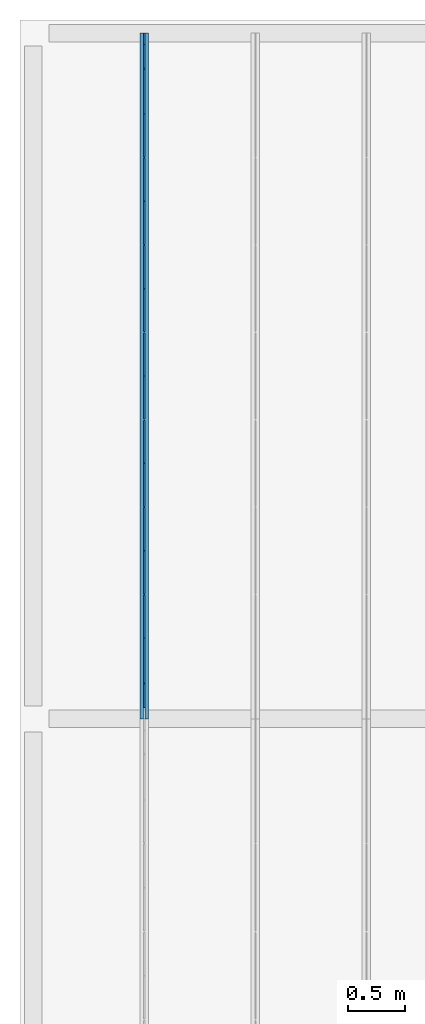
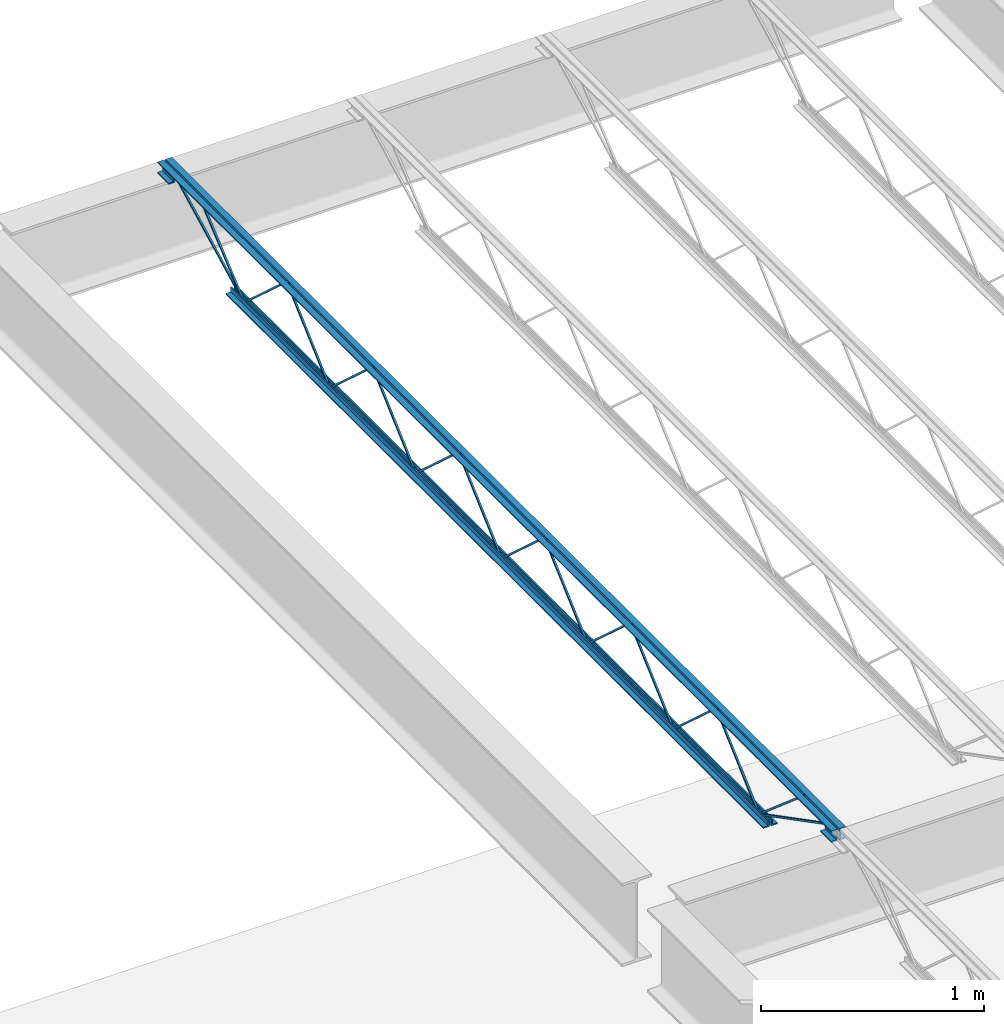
# One storey, part 36 of 75: 1 beam.
"""IFC2X3 building model written with IfcOpenShell, lengths in metres."""

from ifc_helpers import new_model, entity, si_unit, converted_unit, frame, origin, place, context, project, spatial, face_set, surface_model, element, save


model = new_model("IFC2X3")

# Units and contexts
model_context = context("Model", 3, precision=1e-09, world=origin())
plan_context = context("Plan", 3, precision=1e-09, world=origin())
ifc_project = project(units=[si_unit("LENGTHUNIT", "METRE"), si_unit("AREAUNIT", "SQUARE_METRE"), si_unit("VOLUMEUNIT", "CUBIC_METRE"), converted_unit("PLANEANGLEUNIT", "DEGREE", entity("IfcRatioMeasure", 0.01745329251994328), si_unit("PLANEANGLEUNIT", "RADIAN"), dimensions=[0, 0, 0, 0, 0, 0, 0]), si_unit("TIMEUNIT", "SECOND")], contexts=[model_context, plan_context])

# Site, building, storey
site_placement = place(None, origin())
site = spatial("IfcSite", under=ifc_project, at=site_placement, Name="Default", CompositionType="ELEMENT")
building_placement = place(site_placement, origin())
building = spatial("IfcBuilding", under=site, at=building_placement, CompositionType="ELEMENT")
storey_placement = place(building_placement, origin())
storey = spatial("IfcBuildingStorey", under=building, at=storey_placement, Name="First Floor", CompositionType="ELEMENT", Elevation=-3.531500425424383e-13)

# Beam
beam_placement = place(storey_placement, frame((-50.95674999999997, 50.09000000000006, 4.112000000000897), z_axis=(0.0, 0.0, 1.0), x_axis=(-1.0, 0.0, 0.0)))
element("IfcBeam", 1, at=beam_placement, inside=storey, Name="M_K-Series Bar Joist-Rod Web:14K1:14K1", ObjectType="M_K-Series Bar Joist-Rod Web:14K1", context=model_context, shape_type="SurfaceModel", body=[
    surface_model("IfcFaceBasedSurfaceModel", [(-0.03200000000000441, -2.254000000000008, 0.01110000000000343), (-0.0415000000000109, -2.254000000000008, 0.01110000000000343), (-0.0415000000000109, -2.254000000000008, 0.001600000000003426), (-0.03200000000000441, -2.254000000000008, 0.001600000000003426), (-0.04150000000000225, -2.252655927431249, 0.01110000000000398), (-0.03200000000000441, -2.252655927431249, 0.01110000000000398), (-0.04150000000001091, -2.248994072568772, 0.001600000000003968), (-0.04150000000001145, -1.869844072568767, 0.3449000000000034), (-0.04150000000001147, -1.86715592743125, 0.3449000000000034), (-0.04150000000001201, -1.48800592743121, 0.001600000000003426), (-0.04150000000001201, -1.483000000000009, 0.001600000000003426), (-0.04150000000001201, -1.483000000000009, 0.01110000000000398), (-0.04150000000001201, -1.484344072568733, 0.01110000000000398), (-0.04150000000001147, -1.863494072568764, 0.3544000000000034), (-0.04150000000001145, -1.873505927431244, 0.3544000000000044), (-0.03200000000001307, -2.248994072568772, 0.001600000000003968), (-0.03200000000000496, -1.869844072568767, 0.3449000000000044), (-0.03200000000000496, -1.86715592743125, 0.3449000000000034), (-0.0320000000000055, -1.48800592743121, 0.001600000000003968), (-0.03200000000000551, -1.483000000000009, 0.001600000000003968), (-0.03200000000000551, -1.483000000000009, 0.01110000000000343), (-0.0320000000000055, -1.484344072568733, 0.01110000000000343), (-0.03200000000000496, -1.863494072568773, 0.3544000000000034), (-0.03200000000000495, -1.873505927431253, 0.3544000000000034), (-0.0320000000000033, -3.025000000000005, 0.01110000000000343), (-0.04150000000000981, -3.025000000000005, 0.01110000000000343), (-0.04150000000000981, -3.025000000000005, 0.001600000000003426), (-0.0320000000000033, -3.025000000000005, 0.001600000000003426), (-0.04150000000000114, -3.023655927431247, 0.01110000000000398), (-0.0320000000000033, -3.023655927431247, 0.01110000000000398), (-0.04150000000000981, -3.01999407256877, 0.001600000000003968), (-0.04150000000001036, -2.640844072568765, 0.3449000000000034), (-0.04150000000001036, -2.638155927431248, 0.3449000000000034), (-0.0415000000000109, -2.259005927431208, 0.001600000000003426), (-0.0415000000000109, -2.254000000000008, 0.01110000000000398), (-0.0415000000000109, -2.255344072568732, 0.01110000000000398), (-0.04150000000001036, -2.634494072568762, 0.3544000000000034), (-0.04150000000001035, -2.644505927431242, 0.3544000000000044), (-0.03200000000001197, -3.01999407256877, 0.001600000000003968), (-0.03200000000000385, -2.640844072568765, 0.3449000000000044), (-0.03200000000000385, -2.638155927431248, 0.3449000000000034), (-0.03200000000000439, -2.259005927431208, 0.001600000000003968), (-0.03200000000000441, -2.254000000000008, 0.001600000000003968), (-0.0320000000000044, -2.255344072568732, 0.01110000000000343), (-0.03200000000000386, -2.634494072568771, 0.3544000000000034), (-0.03200000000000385, -2.644505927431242, 0.3544000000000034), (-0.03200000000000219, -3.796000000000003, 0.01110000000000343), (-0.0415000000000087, -3.796000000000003, 0.01110000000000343), (-0.0415000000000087, -3.796000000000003, 0.001600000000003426), (-0.03200000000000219, -3.796000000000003, 0.001600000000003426), (-0.04150000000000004, -3.794655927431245, 0.01110000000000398), (-0.03200000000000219, -3.794655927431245, 0.01110000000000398), (-0.0415000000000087, -3.790994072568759, 0.001600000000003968), (-0.04150000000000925, -3.411844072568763, 0.3449000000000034), (-0.04150000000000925, -3.409155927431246, 0.3449000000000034), (-0.04150000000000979, -3.030005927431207, 0.001600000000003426), (-0.04150000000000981, -3.025000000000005, 0.01110000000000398), (-0.04150000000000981, -3.026344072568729, 0.01110000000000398), (-0.04150000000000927, -3.40549407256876, 0.3544000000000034), (-0.04150000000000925, -3.41550592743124, 0.3544000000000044), (-0.03200000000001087, -3.790994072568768, 0.001600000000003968), (-0.03200000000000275, -3.411844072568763, 0.3449000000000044), (-0.03200000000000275, -3.409155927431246, 0.3449000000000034), (-0.03200000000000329, -3.030005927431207, 0.001600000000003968), (-0.0320000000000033, -3.025000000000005, 0.001600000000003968), (-0.0320000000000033, -3.026344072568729, 0.01110000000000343), (-0.03200000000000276, -3.40549407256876, 0.3544000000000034), (-0.03200000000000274, -3.41550592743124, 0.3544000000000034), (-0.03200000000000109, -4.567000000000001, 0.01110000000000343), (-0.04150000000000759, -4.567000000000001, 0.01110000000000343), (-0.04150000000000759, -4.567000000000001, 0.001600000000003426), (-0.03200000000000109, -4.567000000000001, 0.001600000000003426), (-0.04149999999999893, -4.565655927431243, 0.01110000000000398), (-0.03200000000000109, -4.565655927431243, 0.01110000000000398), (-0.04150000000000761, -4.561994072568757, 0.001600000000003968), (-0.04150000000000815, -4.182844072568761, 0.3449000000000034), (-0.04150000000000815, -4.180155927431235, 0.3449000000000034), (-0.0415000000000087, -3.801005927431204, 0.001600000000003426), (-0.0415000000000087, -3.795999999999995, 0.001600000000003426), (-0.0415000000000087, -3.796000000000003, 0.01110000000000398), (-0.0415000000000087, -3.797344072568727, 0.01110000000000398), (-0.04150000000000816, -4.176494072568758, 0.3544000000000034), (-0.04150000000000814, -4.186505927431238, 0.3544000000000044), (-0.03200000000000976, -4.561994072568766, 0.001600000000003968), (-0.03200000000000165, -4.182844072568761, 0.3449000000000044), (-0.03200000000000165, -4.180155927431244, 0.3449000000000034), (-0.03200000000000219, -3.801005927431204, 0.001600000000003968), (-0.03200000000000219, -3.796000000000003, 0.001600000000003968), (-0.03200000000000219, -3.795999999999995, 0.01110000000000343), (-0.03200000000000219, -3.797344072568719, 0.01110000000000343), (-0.03200000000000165, -4.176494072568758, 0.3544000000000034), (-0.03200000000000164, -4.186505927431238, 0.3544000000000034), (-0.03200000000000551, -1.483000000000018, 0.01109999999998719), (-0.04150000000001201, -1.483000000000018, 0.01109999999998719), (-0.04150000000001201, -1.483000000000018, 0.001599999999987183), (-0.03200000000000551, -1.483000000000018, 0.001599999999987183), (-0.04150000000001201, -1.48165592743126, 0.01109999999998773), (-0.03200000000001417, -1.48165592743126, 0.01109999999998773), (-0.04150000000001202, -1.477994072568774, 0.001599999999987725), (-0.04150000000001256, -1.098844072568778, 0.3448999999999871), (-0.04150000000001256, -1.096155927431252, 0.3448999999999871), (-0.04150000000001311, -0.717005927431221, 0.001599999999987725), (-0.04150000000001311, -0.7120000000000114, 0.001599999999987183), (-0.04150000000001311, -0.7120000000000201, 0.01109999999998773), (-0.04150000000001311, -0.713344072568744, 0.01109999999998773), (-0.04150000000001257, -1.092494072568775, 0.3543999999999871), (-0.04150000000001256, -1.102505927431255, 0.3543999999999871), (-0.03200000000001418, -1.477994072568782, 0.001599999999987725), (-0.03200000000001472, -1.098844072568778, 0.3448999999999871), (-0.03200000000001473, -1.09615592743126, 0.3448999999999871), (-0.03200000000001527, -0.717005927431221, 0.001599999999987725), (-0.03200000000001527, -0.7120000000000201, 0.001599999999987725), (-0.03200000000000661, -0.7120000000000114, 0.01109999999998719), (-0.03200000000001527, -0.7133440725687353, 0.01109999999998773), (-0.03200000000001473, -1.092494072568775, 0.3543999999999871), (-0.03200000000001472, -1.102505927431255, 0.3543999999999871), (-0.03199999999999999, -5.33799999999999, 0.01110000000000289), (-0.04150000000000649, -5.33799999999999, 0.01110000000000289), (-0.04150000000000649, -5.33799999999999, 0.001600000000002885), (-0.03199999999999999, -5.33799999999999, 0.001600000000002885), (-0.04149999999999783, -5.336655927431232, 0.01110000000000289), (-0.03199999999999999, -5.336655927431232, 0.01110000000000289), (-0.0415000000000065, -5.332994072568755, 0.001600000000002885), (-0.04150000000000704, -4.95384407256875, 0.3449000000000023), (-0.04150000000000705, -4.951155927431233, 0.3449000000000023), (-0.04150000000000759, -4.572005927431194, 0.001600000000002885), (-0.04150000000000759, -4.566999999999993, 0.001600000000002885), (-0.04150000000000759, -4.566999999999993, 0.01110000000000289), (-0.04150000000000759, -4.568344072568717, 0.01110000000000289), (-0.04150000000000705, -4.947494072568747, 0.3544000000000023), (-0.04150000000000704, -4.957505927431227, 0.3544000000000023), (-0.03200000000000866, -5.332994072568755, 0.001600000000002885), (-0.03200000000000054, -4.95384407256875, 0.3449000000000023), (-0.03200000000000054, -4.951155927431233, 0.3449000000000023), (-0.03200000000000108, -4.572005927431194, 0.001600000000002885), (-0.03200000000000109, -4.566999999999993, 0.001600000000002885), (-0.03200000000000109, -4.566999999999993, 0.01110000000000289), (-0.03200000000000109, -4.568344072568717, 0.01110000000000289), (-0.03200000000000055, -4.947494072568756, 0.3544000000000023), (-0.03200000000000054, -4.957505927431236, 0.3544000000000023), (-0.04150000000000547, 0.0, 0.3559999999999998), (-0.07350000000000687, 0.0, 0.3559999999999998), (-0.07350000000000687, 0.0, 0.349499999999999), (-0.048000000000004, 0.0, 0.349499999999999), (-0.048000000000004, 0.0, 0.3239999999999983), (-0.04150000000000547, 0.0, 0.3239999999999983), (-0.03200000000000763, 0.0, 0.3559999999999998), (-0.03200000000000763, 0.0, 0.3239999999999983), (-0.02550000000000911, 0.0, 0.3239999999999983), (-0.02550000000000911, 0.0, 0.349499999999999), (0.0, 0.0, 0.349499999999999), (0.0, 0.0, 0.3559999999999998), (-0.04150000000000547, -6.049999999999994, 0.3559999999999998), (-0.07350000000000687, -6.049999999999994, 0.3559999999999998), (-0.07350000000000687, -6.049999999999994, 0.349499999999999), (-0.048000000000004, -6.049999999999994, 0.349499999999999), (-0.048000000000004, -6.049999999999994, 0.3239999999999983), (-0.04150000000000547, -6.049999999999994, 0.3239999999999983), (-0.03200000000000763, -6.049999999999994, 0.3559999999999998), (-0.03200000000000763, -6.049999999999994, 0.3239999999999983), (-0.02550000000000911, -6.049999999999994, 0.3239999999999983), (-0.02550000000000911, -6.049999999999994, 0.349499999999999), (0.0, -6.049999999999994, 0.349499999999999), (0.0, -6.049999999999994, 0.3559999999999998), (-0.03199999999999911, -5.950000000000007, 0.2924999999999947), (0.0, -5.950000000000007, 0.2924999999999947), (0.0, -5.950000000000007, 0.2989999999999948), (-0.02550000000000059, -5.950000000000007, 0.2989999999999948), (-0.02550000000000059, -5.950000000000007, 0.3239999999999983), (-0.03199999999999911, -5.950000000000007, 0.3239999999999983), (-0.07349999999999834, -5.950000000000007, 0.2924999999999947), (-0.04149999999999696, -5.950000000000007, 0.2924999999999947), (-0.04149999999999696, -5.950000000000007, 0.3239999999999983), (-0.04799999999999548, -5.950000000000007, 0.3239999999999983), (-0.04799999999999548, -5.950000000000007, 0.2989999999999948), (-0.07349999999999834, -5.950000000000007, 0.2989999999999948), (-0.03199999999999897, -6.049999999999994, 0.2924999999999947), (0.0, -6.049999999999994, 0.2924999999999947), (0.0, -6.049999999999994, 0.2989999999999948), (-0.02550000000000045, -6.049999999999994, 0.2989999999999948), (-0.02550000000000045, -6.049999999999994, 0.3239999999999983), (-0.03199999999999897, -6.049999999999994, 0.3239999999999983), (-0.07349999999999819, -6.049999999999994, 0.2924999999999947), (-0.04149999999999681, -6.049999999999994, 0.2924999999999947), (-0.04149999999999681, -6.049999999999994, 0.3239999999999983), (-0.04799999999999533, -6.049999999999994, 0.3239999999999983), (-0.04799999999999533, -6.049999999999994, 0.2989999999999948), (-0.07349999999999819, -6.049999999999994, 0.2989999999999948), (-0.04149999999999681, 0.0, 0.2924999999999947), (-0.04149999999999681, 0.0, 0.3239999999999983), (-0.04799999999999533, 0.0, 0.3239999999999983), (-0.04799999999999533, 0.0, 0.2989999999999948), (-0.07349999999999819, 0.0, 0.2989999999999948), (-0.07349999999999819, 0.0, 0.2924999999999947), (-0.03199999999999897, 0.0, 0.2924999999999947), (0.0, 0.0, 0.2924999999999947), (0.0, 0.0, 0.2989999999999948), (-0.02550000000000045, 0.0, 0.2989999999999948), (-0.02550000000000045, 0.0, 0.3239999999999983), (-0.03199999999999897, 0.0, 0.3239999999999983), (-0.04150000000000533, -0.0999999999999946, 0.2924999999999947), (-0.04150000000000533, -0.0999999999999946, 0.3239999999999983), (-0.04800000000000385, -0.0999999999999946, 0.3239999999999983), (-0.04800000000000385, -0.0999999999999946, 0.2989999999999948), (-0.07350000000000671, -0.0999999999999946, 0.2989999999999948), (-0.07350000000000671, -0.0999999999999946, 0.2924999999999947), (-0.03200000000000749, -0.0999999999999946, 0.2924999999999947), (0.0, -0.0999999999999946, 0.2924999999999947), (0.0, -0.0999999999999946, 0.2989999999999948), (-0.02550000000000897, -0.0999999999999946, 0.2989999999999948), (-0.02550000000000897, -0.0999999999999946, 0.3239999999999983), (-0.03200000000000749, -0.0999999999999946, 0.3239999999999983), (-0.04150000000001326, -0.6119999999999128, 0.0), (-0.04150000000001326, -0.6119999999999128, 0.03199999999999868), (-0.04800000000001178, -0.6119999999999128, 0.03199999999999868), (-0.04800000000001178, -0.6119999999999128, 0.006499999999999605), (-0.07350000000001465, -0.6119999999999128, 0.006499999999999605), (-0.07350000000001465, -0.6119999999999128, 0.0), (-0.03200000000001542, -0.6119999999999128, 0.0), (0.0, -0.6119999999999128, 0.0), (0.0, -0.6119999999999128, 0.006499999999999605), (-0.0255000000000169, -0.6119999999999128, 0.006499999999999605), (-0.0255000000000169, -0.6119999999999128, 0.03199999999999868), (-0.03200000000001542, -0.6119999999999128, 0.03199999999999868), (-0.04150000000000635, -5.437999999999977, 0.0), (-0.04150000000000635, -5.437999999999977, 0.03199999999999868), (-0.04800000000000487, -5.437999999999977, 0.03199999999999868), (-0.04800000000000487, -5.437999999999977, 0.006499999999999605), (-0.07350000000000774, -5.437999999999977, 0.006499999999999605), (-0.07350000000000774, -5.437999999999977, 0.0), (-0.03200000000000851, -5.437999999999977, 0.0), (0.0, -5.437999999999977, 0.0), (0.0, -5.437999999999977, 0.006499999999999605), (-0.02550000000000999, -5.437999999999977, 0.006499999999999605), (-0.02550000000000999, -5.437999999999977, 0.03199999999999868), (-0.03200000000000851, -5.437999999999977, 0.03199999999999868), (-0.03199999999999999, -5.335811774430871, 0.01056594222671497), (-0.0415000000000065, -5.335811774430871, 0.01056594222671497), (-0.04150000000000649, -5.34018822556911, 0.002134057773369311), (-0.03199999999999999, -5.34018822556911, 0.002134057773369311), (-0.03199999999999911, -5.948840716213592, 0.3287499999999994), (-0.03199999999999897, -6.049999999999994, 0.3287499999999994), (-0.03199999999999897, -6.049999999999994, 0.3192499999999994), (-0.03199999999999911, -5.951159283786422, 0.3192499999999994), (-0.04149999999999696, -5.951159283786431, 0.3192499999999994), (-0.04150000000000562, -5.948840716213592, 0.3287499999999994), (-0.04150000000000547, -6.049999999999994, 0.3287499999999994), (-0.04150000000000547, -6.049999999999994, 0.3192499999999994), (-0.03199999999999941, -5.743457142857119, 0.341700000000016), (-0.04150000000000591, -5.743457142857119, 0.341700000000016), (-0.04150000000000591, -5.743457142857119, 0.332200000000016), (-0.03199999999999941, -5.743457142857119, 0.332200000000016), (-0.04149999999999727, -5.729024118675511, 0.341700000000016), (-0.03199999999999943, -5.729024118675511, 0.341700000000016), (-0.04150000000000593, -5.732490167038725, 0.332200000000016), (-0.04150000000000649, -5.341058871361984, 0.002716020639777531), (-0.0415000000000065, -5.334941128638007, 0.009983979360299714), (-0.03200000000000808, -5.732490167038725, 0.332200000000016), (-0.03199999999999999, -5.341058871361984, 0.002716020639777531), (-0.03199999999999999, -5.334941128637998, 0.009983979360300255), (-0.0320000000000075, -0.09781177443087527, 0.3197840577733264), (-0.03200000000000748, -0.1021882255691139, 0.3282159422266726), (-0.04150000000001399, -0.1021882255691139, 0.3282159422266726), (-0.04150000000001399, -0.09781177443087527, 0.3197840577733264), (-0.03200000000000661, -0.7098117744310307, 0.002134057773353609), (-0.03200000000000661, -0.7141882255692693, 0.01056594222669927), (-0.04150000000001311, -0.7141882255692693, 0.01056594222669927), (-0.04150000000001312, -0.7098117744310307, 0.002134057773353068), (-0.03200000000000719, -0.3088922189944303, 0.3460454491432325), (-0.03200000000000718, -0.3150792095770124, 0.3532545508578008), (-0.04150000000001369, -0.3150792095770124, 0.3532545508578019), (-0.04150000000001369, -0.3088922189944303, 0.3460454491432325), (-0.03200000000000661, -0.7089065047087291, 0.002745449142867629), (-0.03200000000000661, -0.715093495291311, 0.009954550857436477), (-0.04150000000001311, -0.715093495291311, 0.009954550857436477), (-0.04150000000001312, -0.7089065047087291, 0.002745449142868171)], [face_set([[[0, 1, 2, 3]], [[1, 4, 5, 0]], [[2, 6, 7, 8, 9, 10, 11, 12, 13, 14, 4, 1]], [[3, 2, 6, 15]], [[0, 3, 15, 16, 17, 18, 19, 20, 21, 22, 23, 5]], [[4, 5, 23, 14]], [[15, 16, 7, 6]], [[14, 13, 22, 23]], [[16, 7, 8, 17]], [[13, 12, 21, 22]], [[17, 8, 9, 18]], [[20, 11, 10, 19]], [[12, 11, 20, 21]], [[18, 9, 10, 19]]]), face_set([[[24, 25, 26, 27]], [[25, 28, 29, 24]], [[26, 30, 31, 32, 33, 2, 34, 35, 36, 37, 28, 25]], [[27, 26, 30, 38]], [[24, 27, 38, 39, 40, 41, 42, 0, 43, 44, 45, 29]], [[28, 29, 45, 37]], [[38, 39, 31, 30]], [[37, 36, 44, 45]], [[39, 31, 32, 40]], [[36, 35, 43, 44]], [[40, 32, 33, 41]], [[0, 34, 2, 42]], [[35, 34, 0, 43]], [[41, 33, 2, 42]]]), face_set([[[46, 47, 48, 49]], [[47, 50, 51, 46]], [[48, 52, 53, 54, 55, 26, 56, 57, 58, 59, 50, 47]], [[49, 48, 52, 60]], [[46, 49, 60, 61, 62, 63, 64, 24, 65, 66, 67, 51]], [[50, 51, 67, 59]], [[60, 61, 53, 52]], [[59, 58, 66, 67]], [[61, 53, 54, 62]], [[58, 57, 65, 66]], [[62, 54, 55, 63]], [[24, 56, 26, 64]], [[57, 56, 24, 65]], [[63, 55, 26, 64]]]), face_set([[[68, 69, 70, 71]], [[69, 72, 73, 68]], [[70, 74, 75, 76, 77, 78, 79, 80, 81, 82, 72, 69]], [[71, 70, 74, 83]], [[68, 71, 83, 84, 85, 86, 87, 88, 89, 90, 91, 73]], [[72, 73, 91, 82]], [[83, 84, 75, 74]], [[82, 81, 90, 91]], [[84, 75, 76, 85]], [[81, 80, 89, 90]], [[85, 76, 77, 86]], [[88, 79, 78, 87]], [[80, 79, 88, 89]], [[86, 77, 78, 87]]]), face_set([[[92, 93, 94, 95]], [[93, 96, 97, 92]], [[94, 98, 99, 100, 101, 102, 103, 104, 105, 106, 96, 93]], [[95, 94, 98, 107]], [[92, 95, 107, 108, 109, 110, 111, 112, 113, 114, 115, 97]], [[96, 97, 115, 106]], [[107, 108, 99, 98]], [[106, 105, 114, 115]], [[108, 99, 100, 109]], [[105, 104, 113, 114]], [[109, 100, 101, 110]], [[112, 103, 102, 111]], [[104, 103, 112, 113]], [[110, 101, 102, 111]]]), face_set([[[116, 117, 118, 119]], [[117, 120, 121, 116]], [[118, 122, 123, 124, 125, 126, 127, 128, 129, 130, 120, 117]], [[119, 118, 122, 131]], [[116, 119, 131, 132, 133, 134, 135, 136, 137, 138, 139, 121]], [[120, 121, 139, 130]], [[131, 132, 123, 122]], [[130, 129, 138, 139]], [[132, 123, 124, 133]], [[129, 128, 137, 138]], [[133, 124, 125, 134]], [[136, 127, 126, 135]], [[128, 127, 136, 137]], [[134, 125, 126, 135]]]), face_set([[[140, 141, 142, 143, 144, 145]], [[146, 147, 148, 149, 150, 151]], [[152, 153, 154, 155, 156, 157]], [[158, 159, 160, 161, 162, 163]], [[145, 140, 152, 157]], [[144, 145, 157, 156]], [[143, 155, 156, 144]], [[142, 143, 155, 154]], [[141, 153, 154, 142]], [[140, 152, 153, 141]], [[151, 163, 158, 146]], [[150, 151, 163, 162]], [[149, 150, 162, 161]], [[148, 149, 161, 160]], [[147, 148, 160, 159]], [[146, 158, 159, 147]]]), face_set([[[164, 165, 166, 167, 168, 169]], [[170, 171, 172, 173, 174, 175]], [[176, 177, 178, 179, 180, 181]], [[182, 183, 184, 185, 186, 187]], [[169, 181, 176, 164]], [[168, 180, 181, 169]], [[167, 168, 180, 179]], [[166, 178, 179, 167]], [[165, 166, 178, 177]], [[164, 165, 177, 176]], [[175, 187, 182, 170]], [[174, 186, 187, 175]], [[173, 185, 186, 174]], [[172, 184, 185, 173]], [[171, 172, 184, 183]], [[170, 171, 183, 182]]]), face_set([[[188, 189, 190, 191, 192, 193]], [[194, 195, 196, 197, 198, 199]], [[200, 201, 202, 203, 204, 205]], [[206, 207, 208, 209, 210, 211]], [[193, 188, 200, 205]], [[192, 204, 205, 193]], [[191, 203, 204, 192]], [[190, 202, 203, 191]], [[189, 201, 202, 190]], [[188, 189, 201, 200]], [[199, 211, 206, 194]], [[198, 210, 211, 199]], [[197, 198, 210, 209]], [[196, 208, 209, 197]], [[195, 196, 208, 207]], [[194, 195, 207, 206]]]), face_set([[[212, 213, 214, 215, 216, 217]], [[218, 219, 220, 221, 222, 223]], [[224, 225, 226, 227, 228, 229]], [[230, 231, 232, 233, 234, 235]], [[217, 212, 224, 229]], [[216, 228, 229, 217]], [[215, 227, 228, 216]], [[214, 226, 227, 215]], [[213, 225, 226, 214]], [[212, 213, 225, 224]], [[223, 235, 230, 218]], [[222, 234, 235, 223]], [[221, 222, 234, 233]], [[220, 232, 233, 221]], [[219, 220, 232, 231]], [[218, 219, 231, 230]]]), face_set([[[236, 237, 238, 239]], [[239, 236, 240, 241, 242, 243]], [[238, 239, 243, 244]], [[237, 245, 246, 247, 244, 238]], [[236, 240, 245, 237]], [[241, 246, 247, 242]], [[244, 243, 242, 247]], [[240, 241, 246, 245]]]), face_set([[[248, 249, 250, 251]], [[249, 252, 253, 248]], [[250, 254, 255, 256, 252, 249]], [[251, 250, 254, 257]], [[248, 251, 257, 258, 259, 253]], [[259, 256, 255, 258]], [[252, 256, 259, 253]], [[257, 254, 255, 258]]]), face_set([[[260, 261, 262, 263]], [[264, 265, 266, 267]], [[263, 267, 264, 260]], [[262, 266, 267, 263]], [[261, 262, 266, 265]], [[260, 261, 265, 264]]]), face_set([[[268, 269, 270, 271]], [[272, 273, 274, 275]], [[271, 275, 272, 268]], [[270, 274, 275, 271]], [[269, 270, 274, 273]], [[268, 269, 273, 272]]])]),
])

save(model, "model.ifc")
